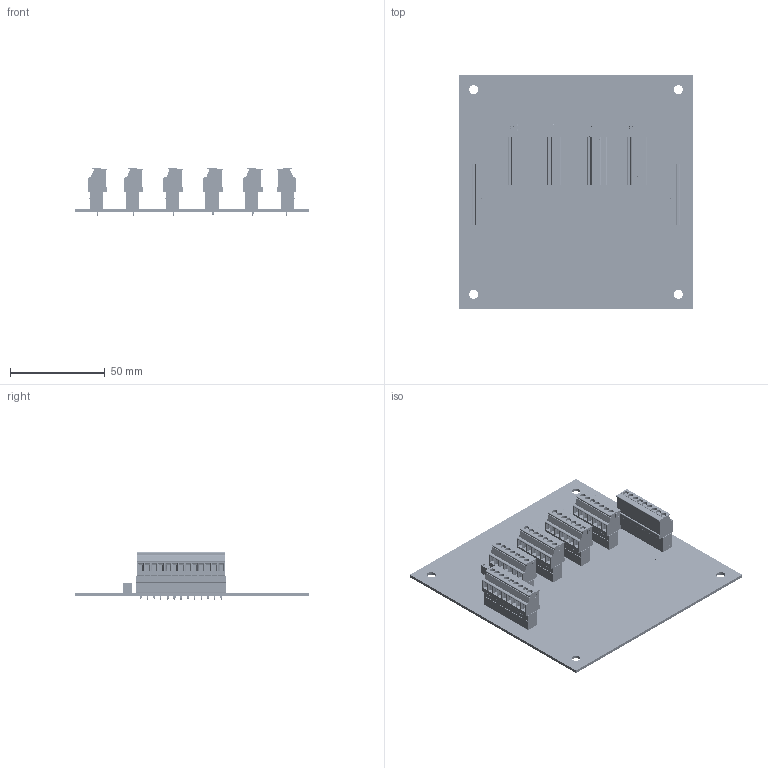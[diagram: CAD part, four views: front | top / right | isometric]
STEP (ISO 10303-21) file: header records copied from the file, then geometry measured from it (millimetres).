
FILE_DESCRIPTION (( 'STEP AP203' ), '1' );
FILE_NAME ('HI6020IT-SC2.STEP', '2021-06-10T19:40:17', ( '' ), ( '' ), 'SwSTEP 2.0', 'SolidWorks 2020', '' );
FILE_SCHEMA (( 'CONFIG_CONTROL_DESIGN' ));
Length unit declared in the file: metre
Products named in the file (8): 0535-0573-XX-0; 2140-0136-07-0; 0534-0573-01-0; HI6020IT-SC2; 4617-0010-0; 2140-0137-07-0; 2140-0136-09-0; 2140-0137-09-0
Assembly tree (18 placements, depth 3):
  HI6020IT-SC2
    0535-0573-XX-0
      0534-0573-01-0
      4617-0010-0  x4
      2140-0136-07-0  x4
      2140-0137-07-0  x4
      2140-0136-09-0  x2
      2140-0137-09-0  x2
Bounding box: 123.83 x 123.83 x 25.1 mm (x, y, z)
Volume: 51243.1 mm3; surface area: 64499.4 mm2
Topology: 321 solids, 325 shells, 10482 faces, 26680 edges, 17470 vertices
Faces by surface type: plane 7293, cylinder 1938, bspline 1151, cone 100
Entity records: 245230 total; most frequent: CARTESIAN_POINT 105884, ORIENTED_EDGE 30384, DIRECTION 24266, EDGE_CURVE 15192, VECTOR 11006, LINE 11006, VERTEX_POINT 10026, AXIS2_PLACEMENT_3D 6630
